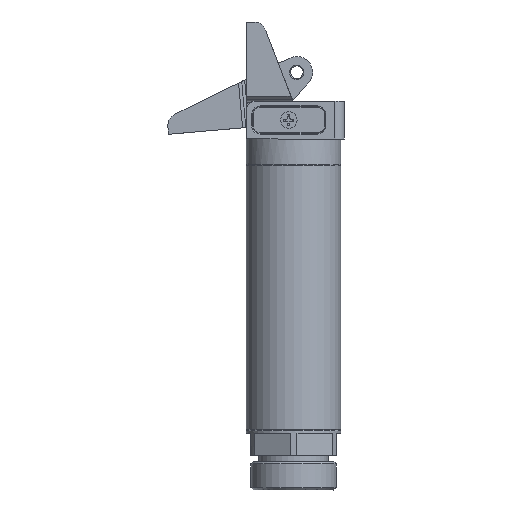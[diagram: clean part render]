
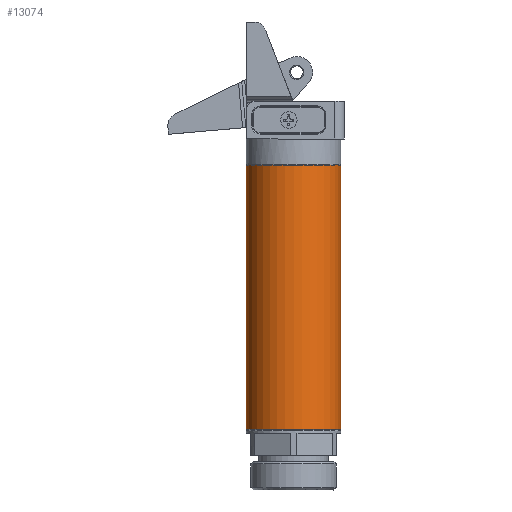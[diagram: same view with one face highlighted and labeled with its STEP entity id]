
A CAD part, left-side view. The second image highlights one B-rep face of the part: STEP entity #13074.
In plain terms, the highlighted cylindrical face has radius 15 mm (diameter 30 mm), a partial arc.
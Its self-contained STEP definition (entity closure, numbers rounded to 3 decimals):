
#994 = LINE ( 'NONE', #26965, #22487 ) ;
#2350 = CIRCLE ( 'NONE', #26460, 15. ) ;
#2686 = AXIS2_PLACEMENT_3D ( 'NONE', #7201, #21789, #9280 ) ;
#3652 = EDGE_CURVE ( 'NONE', #13434, #8476, #994, .T. ) ;
#4665 = ORIENTED_EDGE ( 'NONE', *, *, #25677, .F. ) ;
#5161 = ORIENTED_EDGE ( 'NONE', *, *, #3652, .T. ) ;
#5478 = CIRCLE ( 'NONE', #2686, 15. ) ;
#5698 = CARTESIAN_POINT ( 'NONE',  ( 28., -89.157, -195.825 ) ) ;
#5748 = EDGE_CURVE ( 'NONE', #22292, #13434, #5478, .T. ) ;
#7201 = CARTESIAN_POINT ( 'NONE',  ( 28., -104.157, -195.825 ) ) ;
#8476 = VERTEX_POINT ( 'NONE', #15620 ) ;
#9280 = DIRECTION ( 'NONE',  ( 0., -1., 0. ) ) ;
#12193 = DIRECTION ( 'NONE',  ( 0., 0., 1. ) ) ;
#12339 = DIRECTION ( 'NONE',  ( 0., 0., -1. ) ) ;
#13074 = ADVANCED_FACE ( 'NONE', ( #17219 ), #25063, .T. ) ;
#13434 = VERTEX_POINT ( 'NONE', #19657 ) ;
#13570 = DIRECTION ( 'NONE',  ( 0., 0., 1. ) ) ;
#14680 = EDGE_CURVE ( 'NONE', #8476, #16150, #2350, .T. ) ;
#15214 = ORIENTED_EDGE ( 'NONE', *, *, #14680, .T. ) ;
#15620 = CARTESIAN_POINT ( 'NONE',  ( 28., -119.157, -112.325 ) ) ;
#15979 = ORIENTED_EDGE ( 'NONE', *, *, #5748, .T. ) ;
#16150 = VERTEX_POINT ( 'NONE', #17016 ) ;
#16820 = AXIS2_PLACEMENT_3D ( 'NONE', #21892, #13570, #21963 ) ;
#17016 = CARTESIAN_POINT ( 'NONE',  ( 28., -89.157, -112.325 ) ) ;
#17219 = FACE_OUTER_BOUND ( 'NONE', #18297, .T. ) ;
#17994 = LINE ( 'NONE', #24692, #22872 ) ;
#18297 = EDGE_LOOP ( 'NONE', ( #15979, #5161, #15214, #4665 ) ) ;
#18705 = DIRECTION ( 'NONE',  ( 0., 0., 1. ) ) ;
#19657 = CARTESIAN_POINT ( 'NONE',  ( 28., -119.157, -195.825 ) ) ;
#21789 = DIRECTION ( 'NONE',  ( 0., 0., 1. ) ) ;
#21892 = CARTESIAN_POINT ( 'NONE',  ( 28., -104.157, -104.025 ) ) ;
#21963 = DIRECTION ( 'NONE',  ( 0., 1., 0. ) ) ;
#22292 = VERTEX_POINT ( 'NONE', #5698 ) ;
#22487 = VECTOR ( 'NONE', #18705, 1000. ) ;
#22872 = VECTOR ( 'NONE', #12193, 1000. ) ;
#24692 = CARTESIAN_POINT ( 'NONE',  ( 28., -89.157, -104.025 ) ) ;
#24844 = CARTESIAN_POINT ( 'NONE',  ( 28., -104.157, -112.325 ) ) ;
#25063 = CYLINDRICAL_SURFACE ( 'NONE', #16820, 15. ) ;
#25677 = EDGE_CURVE ( 'NONE', #22292, #16150, #17994, .T. ) ;
#26460 = AXIS2_PLACEMENT_3D ( 'NONE', #24844, #12339, #26895 ) ;
#26895 = DIRECTION ( 'NONE',  ( 0., -1., 0. ) ) ;
#26965 = CARTESIAN_POINT ( 'NONE',  ( 28., -119.157, -104.025 ) ) ;
